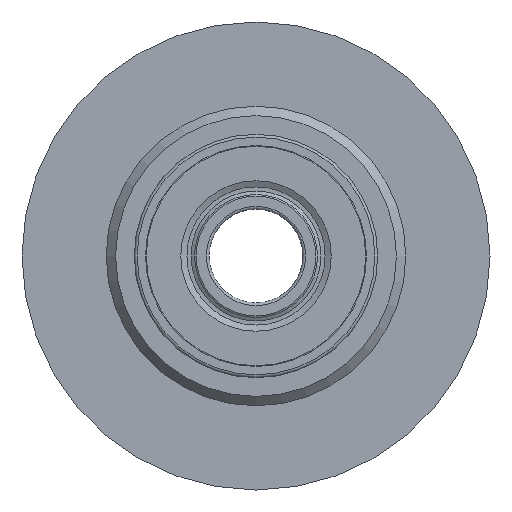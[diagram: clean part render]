
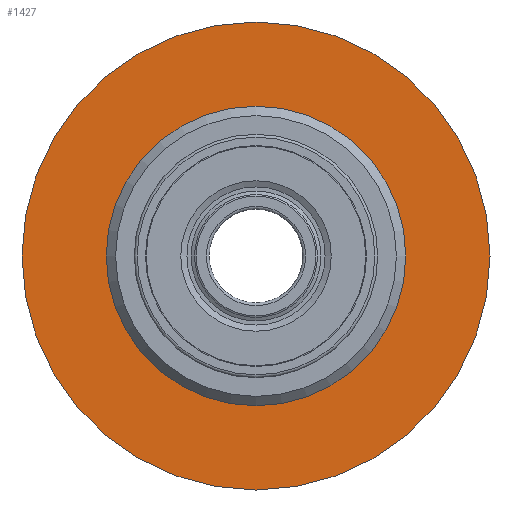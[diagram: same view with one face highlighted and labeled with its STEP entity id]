
A CAD part, left-side view. The second image highlights one B-rep face of the part: STEP entity #1427.
In plain terms, the highlighted planar face has unit normal (-1, 0, 0).
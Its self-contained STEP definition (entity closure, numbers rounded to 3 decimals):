
#121=FACE_BOUND('',#257,.T.);
#149=PLANE('',#1716);
#180=FACE_OUTER_BOUND('',#256,.T.);
#256=EDGE_LOOP('',(#1044,#1045));
#257=EDGE_LOOP('',(#1046,#1047));
#418=CIRCLE('',#1673,16.);
#419=CIRCLE('',#1674,16.);
#446=CIRCLE('',#1709,25.);
#447=CIRCLE('',#1710,25.);
#583=VERTEX_POINT('',#2479);
#584=VERTEX_POINT('',#2480);
#609=VERTEX_POINT('',#2546);
#610=VERTEX_POINT('',#2548);
#754=EDGE_CURVE('',#583,#584,#418,.T.);
#755=EDGE_CURVE('',#584,#583,#419,.T.);
#788=EDGE_CURVE('',#609,#610,#446,.T.);
#789=EDGE_CURVE('',#610,#609,#447,.T.);
#1044=ORIENTED_EDGE('',*,*,#789,.F.);
#1045=ORIENTED_EDGE('',*,*,#788,.F.);
#1046=ORIENTED_EDGE('',*,*,#754,.T.);
#1047=ORIENTED_EDGE('',*,*,#755,.T.);
#1427=ADVANCED_FACE('',(#180,#121),#149,.T.);
#1673=AXIS2_PLACEMENT_3D('',#2481,#1939,#1940);
#1674=AXIS2_PLACEMENT_3D('',#2482,#1941,#1942);
#1709=AXIS2_PLACEMENT_3D('',#2549,#2017,#2018);
#1710=AXIS2_PLACEMENT_3D('',#2550,#2019,#2020);
#1716=AXIS2_PLACEMENT_3D('',#2561,#2033,#2034);
#1939=DIRECTION('center_axis',(1.,0.,0.));
#1940=DIRECTION('ref_axis',(0.,0.,-1.));
#1941=DIRECTION('center_axis',(1.,0.,0.));
#1942=DIRECTION('ref_axis',(0.,0.,-1.));
#2017=DIRECTION('center_axis',(1.,0.,0.));
#2018=DIRECTION('ref_axis',(0.,0.,-1.));
#2019=DIRECTION('center_axis',(1.,0.,0.));
#2020=DIRECTION('ref_axis',(0.,0.,-1.));
#2033=DIRECTION('center_axis',(-1.,0.,0.));
#2034=DIRECTION('ref_axis',(0.,0.,1.));
#2479=CARTESIAN_POINT('',(-6.,16.,0.));
#2480=CARTESIAN_POINT('',(-6.,-16.,0.));
#2481=CARTESIAN_POINT('Origin',(-6.,0.,0.));
#2482=CARTESIAN_POINT('Origin',(-6.,0.,0.));
#2546=CARTESIAN_POINT('',(-6.,-25.,0.));
#2548=CARTESIAN_POINT('',(-6.,25.,0.));
#2549=CARTESIAN_POINT('Origin',(-6.,0.,0.));
#2550=CARTESIAN_POINT('Origin',(-6.,0.,0.));
#2561=CARTESIAN_POINT('Origin',(-6.,25.,0.));
